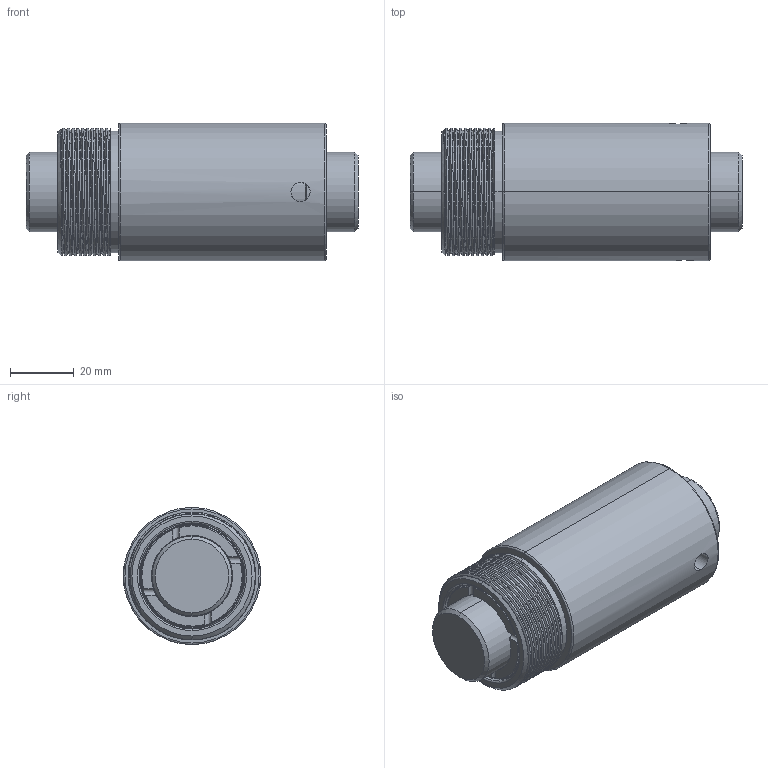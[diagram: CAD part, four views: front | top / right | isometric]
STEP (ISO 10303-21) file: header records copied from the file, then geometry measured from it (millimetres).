
FILE_DESCRIPTION (( 'STEP AP203' ), '1' );
FILE_NAME ('BSHR02510T4-C.STEP', '2020-06-17T07:04:22', ( '' ), ( '' ), 'SwSTEP 2.0', 'SolidWorks 2013', '' );
FILE_SCHEMA (( 'CONFIG_CONTROL_DESIGN' ));
Length unit declared in the file: millimetre
Products named in the file (1): BSHR02510T4-C
Bounding box: 104 x 43 x 43 mm (x, y, z)
Volume: 118443.4 mm3; surface area: 33160.1 mm2
Topology: 2 solids, 2 shells, 122 faces, 307 edges, 192 vertices
Faces by surface type: cylinder 65, torus 26, plane 20, cone 8, bspline 3
Entity records: 6873 total; most frequent: CARTESIAN_POINT 4044, ORIENTED_EDGE 610, DIRECTION 556, EDGE_CURVE 305, AXIS2_PLACEMENT_3D 240, VERTEX_POINT 192, EDGE_LOOP 133, ADVANCED_FACE 122
